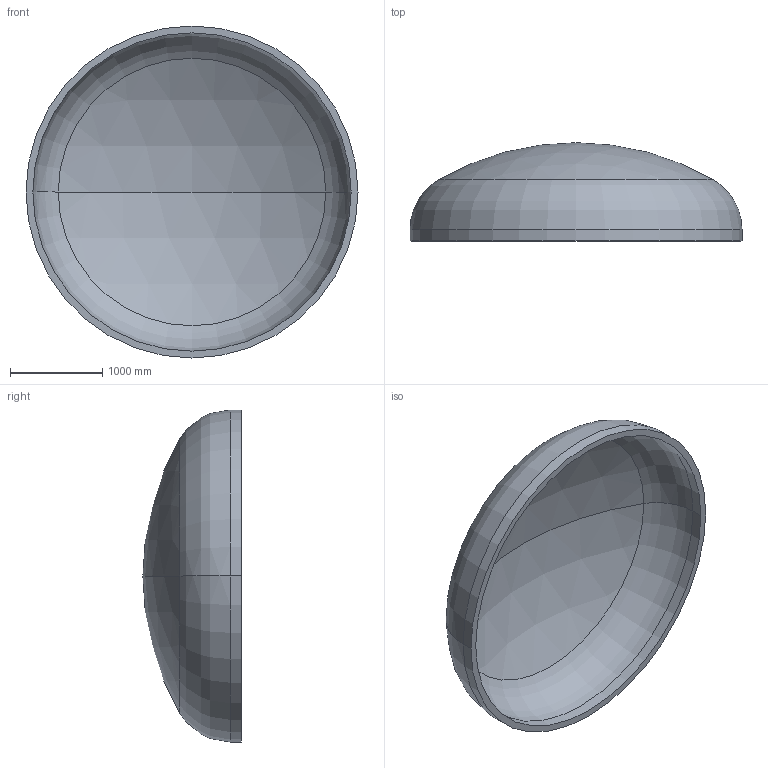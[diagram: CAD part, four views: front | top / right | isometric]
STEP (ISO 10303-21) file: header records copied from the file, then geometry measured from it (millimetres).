
FILE_DESCRIPTION (( 'STEP AP203' ), '1' );
FILE_NAME ('DIN 28013 Korbbogenform_-_Boden DIN 28013 - 3600 x 120 - I - s=74.step', '2016-07-01T20:39:53', ( '' ), ( '' ), 'SwSTEP 2.0', 'SolidWorks 2013', '' );
FILE_SCHEMA (( 'CONFIG_CONTROL_DESIGN' ));
Length unit declared in the file: millimetre
Products named in the file (1): DIN 28013 Korbbogenform_-_Boden DIN 28013 - 3600 x 120 - I - s=74
Bounding box: 3600 x 1065.42 x 3600 mm (x, y, z)
Volume: 1113953109 mm3; surface area: 30938016.2 mm2
Topology: 1 solids, 1 shells, 13 faces, 24 edges, 14 vertices
Faces by surface type: torus 4, cylinder 4, sphere 4, plane 1
Entity records: 407 total; most frequent: DIRECTION 72, CARTESIAN_POINT 52, ORIENTED_EDGE 48, AXIS2_PLACEMENT_3D 34, EDGE_CURVE 24, CIRCLE 20, EDGE_LOOP 14, VERTEX_POINT 14
